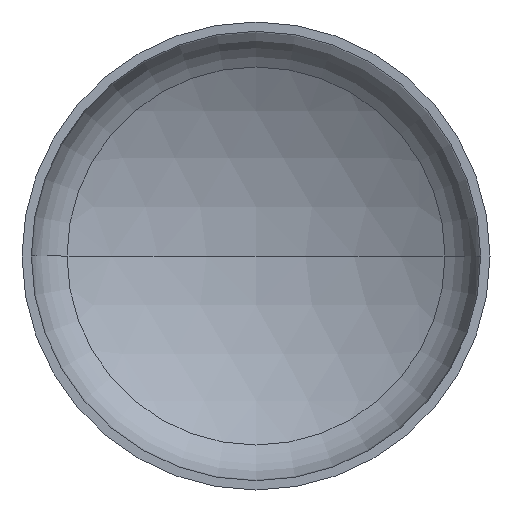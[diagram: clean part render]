
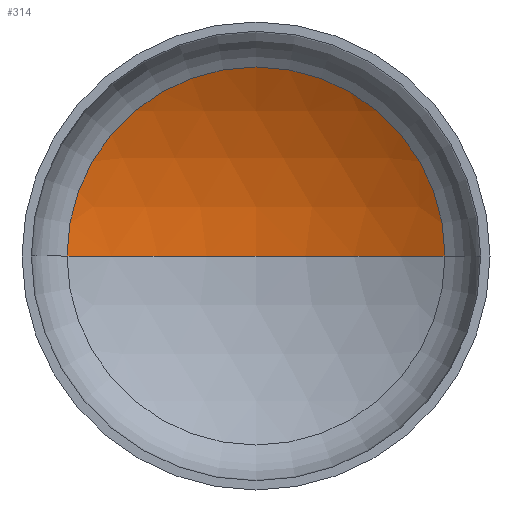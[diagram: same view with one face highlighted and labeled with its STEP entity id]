
A CAD part, front view. The second image highlights one B-rep face of the part: STEP entity #314.
In plain terms, the highlighted spherical face has radius 3200 mm.
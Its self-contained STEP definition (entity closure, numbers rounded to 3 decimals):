
#3 = DIRECTION ( 'NONE',  ( 0., 0., 1. ) ) ;
#10 = AXIS2_PLACEMENT_3D ( 'NONE', #388, #99, #105 ) ;
#18 = EDGE_LOOP ( 'NONE', ( #157, #132, #55 ) ) ;
#37 = AXIS2_PLACEMENT_3D ( 'NONE', #370, #3, #254 ) ;
#40 = AXIS2_PLACEMENT_3D ( 'NONE', #192, #194, #195 ) ;
#42 = AXIS2_PLACEMENT_3D ( 'NONE', #215, #220, #204 ) ;
#54 = VERTEX_POINT ( 'NONE', #276 ) ;
#55 = ORIENTED_EDGE ( 'NONE', *, *, #83, .T. ) ;
#83 = EDGE_CURVE ( 'NONE', #299, #54, #218, .T. ) ;
#84 = EDGE_CURVE ( 'NONE', #133, #299, #146, .T. ) ;
#86 = EDGE_CURVE ( 'NONE', #133, #54, #330, .T. ) ;
#99 = DIRECTION ( 'NONE',  ( 0., 0., -1. ) ) ;
#105 = DIRECTION ( 'NONE',  ( -1., 0., 0. ) ) ;
#132 = ORIENTED_EDGE ( 'NONE', *, *, #84, .T. ) ;
#133 = VERTEX_POINT ( 'NONE', #275 ) ;
#146 = CIRCLE ( 'NONE', #40, 3200. ) ;
#157 = ORIENTED_EDGE ( 'NONE', *, *, #86, .F. ) ;
#192 = CARTESIAN_POINT ( 'NONE',  ( 0., -2111.412, 0. ) ) ;
#194 = DIRECTION ( 'NONE',  ( 0., 0., -1. ) ) ;
#195 = DIRECTION ( 'NONE',  ( -1., 0., 0. ) ) ;
#204 = DIRECTION ( 'NONE',  ( 1., 0., 0. ) ) ;
#215 = CARTESIAN_POINT ( 'NONE',  ( 0., 650.878, 0. ) ) ;
#218 = CIRCLE ( 'NONE', #42, 1615.474 ) ;
#220 = DIRECTION ( 'NONE',  ( 0., -1., 0. ) ) ;
#254 = DIRECTION ( 'NONE',  ( 1., 0., 0. ) ) ;
#275 = CARTESIAN_POINT ( 'NONE',  ( 0., 1088.588, 0. ) ) ;
#276 = CARTESIAN_POINT ( 'NONE',  ( -1615.474, 650.878, 0. ) ) ;
#299 = VERTEX_POINT ( 'NONE', #385 ) ;
#311 = SPHERICAL_SURFACE ( 'NONE', #10, 3200. ) ;
#314 = ADVANCED_FACE ( 'NONE', ( #361 ), #311, .F. ) ;
#330 = CIRCLE ( 'NONE', #37, 3200. ) ;
#361 = FACE_OUTER_BOUND ( 'NONE', #18, .T. ) ;
#370 = CARTESIAN_POINT ( 'NONE',  ( 0., -2111.412, 0. ) ) ;
#385 = CARTESIAN_POINT ( 'NONE',  ( 1615.474, 650.878, 0. ) ) ;
#388 = CARTESIAN_POINT ( 'NONE',  ( 0., -2111.412, 0. ) ) ;
